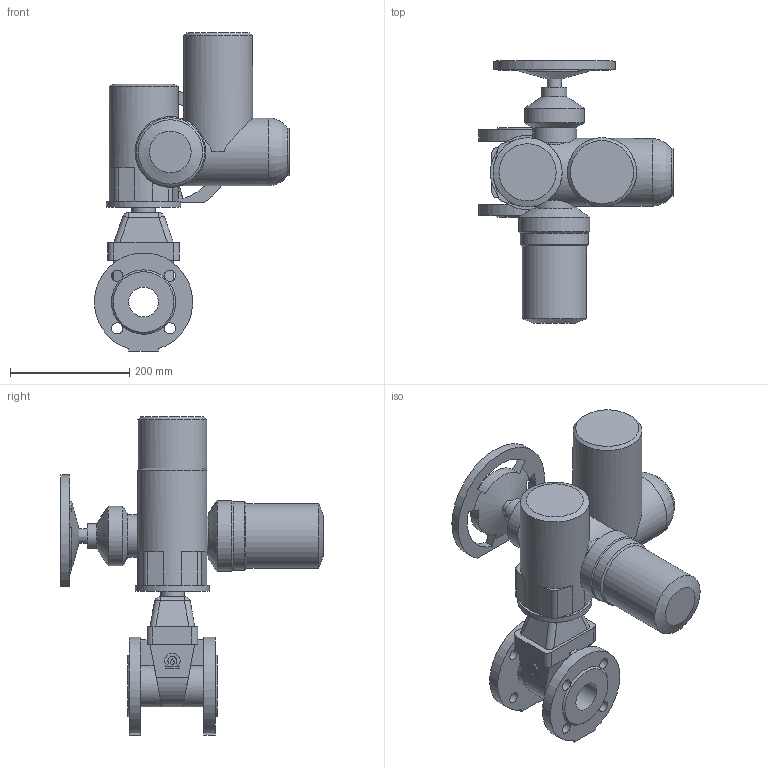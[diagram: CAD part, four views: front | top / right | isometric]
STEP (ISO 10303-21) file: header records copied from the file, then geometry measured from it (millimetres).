
FILE_DESCRIPTION(('STEP AP203'), '1');
FILE_NAME('青溻桄赅 47GVA DN50 PN10_PN16+MT903.A07', '', ('UNSPECIFIED'), ('UNSPECIFIED'), 'ASCON STEP Converter 1.6', 'ASCON Math Kernel', '');
FILE_SCHEMA(('CONFIG_CONTROL_DESIGN'));
Length unit declared in the file: millimetre
Bounding box: 327.35 x 440 x 534.5 mm (x, y, z)
Volume: 10341067.3 mm3; surface area: 622482.7 mm2
Topology: 2 solids, 2 shells, 186 faces, 487 edges, 312 vertices
Faces by surface type: plane 94, cylinder 76, cone 11, bspline 4, torus 1
Full cylindrical faces by diameter (mm): 8.5 x4, 12 x4, 18 x1, 19 x8, 24 x1, 40 x1, 42 x1, 50 x1, 66 x1, 70 x2, 72 x1, 80 x1, 100 x1, 108 x1, 114 x1, 115 x1, 116 x2, 119 x1, 125 x1
Entity records: 9183 total; most frequent: CARTESIAN_POINT 3189, DIRECTION 924, ORIENTED_EDGE 872, EDGE_CURVE 436, AXIS2_PLACEMENT_3D 354, VERTEX_POINT 312, EDGE_LOOP 276, LINE 216
